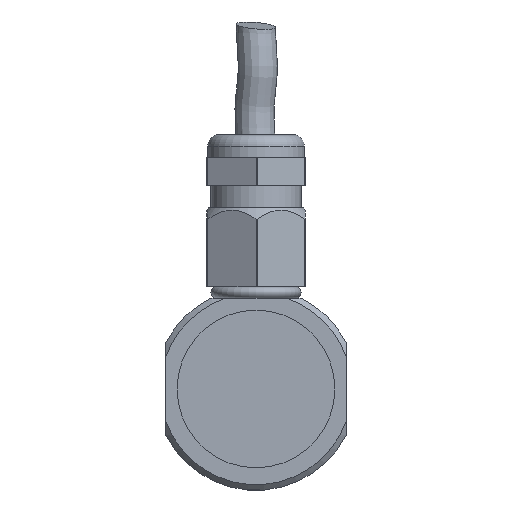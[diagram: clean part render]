
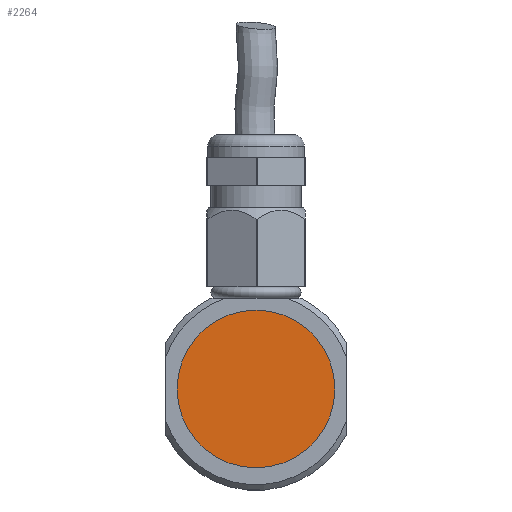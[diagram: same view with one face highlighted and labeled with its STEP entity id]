
A CAD part, left-side view. The second image highlights one B-rep face of the part: STEP entity #2264.
In plain terms, the highlighted planar face has unit normal (-1, 0, 0).
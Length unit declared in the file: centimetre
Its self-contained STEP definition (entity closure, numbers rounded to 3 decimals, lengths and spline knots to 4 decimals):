
#894=PLANE('',#2391);
#942=CIRCLE('',#2390,0.7);
#1068=VERTEX_POINT('',#4650);
#1308=EDGE_CURVE('',#1068,#1068,#942,.T.);
#1615=ORIENTED_EDGE('',*,*,#1308,.T.);
#2004=EDGE_LOOP('',(#1615));
#2137=FACE_BOUND('',#2004,.T.);
#2264=ADVANCED_FACE('',(#2137),#894,.T.);
#2390=AXIS2_PLACEMENT_3D('',#4649,#2613,#2614);
#2391=AXIS2_PLACEMENT_3D('',#4651,#2615,$);
#2613=DIRECTION('',(-1.,0.,0.));
#2614=DIRECTION('',(0.,0.,0.7));
#2615=DIRECTION('',(-1.,0.,0.));
#4649=CARTESIAN_POINT('',(0.1,0.,0.));
#4650=CARTESIAN_POINT('',(0.1,0.,0.7));
#4651=CARTESIAN_POINT('',(0.1,0.,0.));
